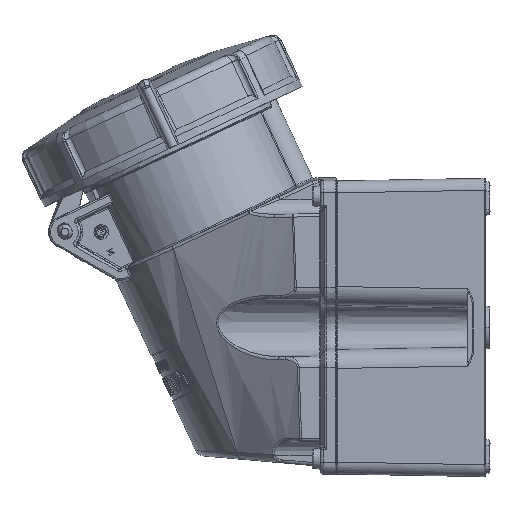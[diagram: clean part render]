
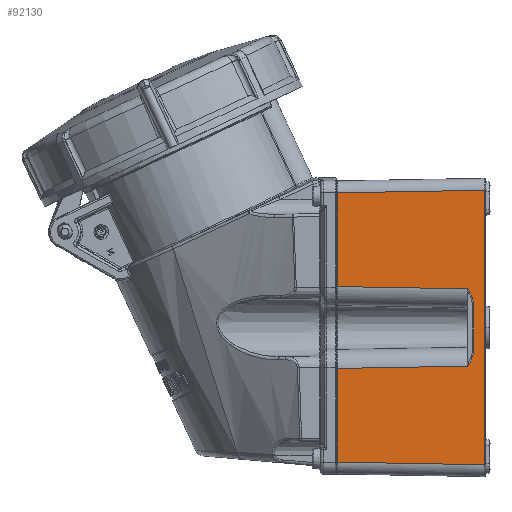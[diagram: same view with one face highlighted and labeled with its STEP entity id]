
A CAD part, left-side view. The second image highlights one B-rep face of the part: STEP entity #92130.
In plain terms, the highlighted planar face has unit normal (-1, 0.018, 0).
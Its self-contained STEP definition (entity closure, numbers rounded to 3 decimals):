
#24042=CARTESIAN_POINT('',(-54.496,-3.797,
-45.997));
#24081=CARTESIAN_POINT('',(-53.632,45.705,
-45.133));
#24086=DIRECTION('',(0.,0.,-1.));
#24087=VECTOR('',#24086,91.994);
#24088=CARTESIAN_POINT('',(-54.496,-3.797,
45.997));
#24089=LINE('2787',#24088,#24087);
#24093=DIRECTION('',(0.017,1.,0.017));
#24094=VECTOR('',#24093,49.517);
#24095=CARTESIAN_POINT('',(-54.496,-3.797,
-45.997));
#24096=LINE('2790',#24095,#24094);
#24100=DIRECTION('',(0.,0.,1.));
#24101=VECTOR('',#24100,31.411);
#24102=CARTESIAN_POINT('',(-53.632,45.705,
-45.133));
#24103=LINE('2736',#24102,#24101);
#24107=DIRECTION('',(-0.017,-1.,0.017));
#24108=VECTOR('',#24107,43.736);
#24109=CARTESIAN_POINT('',(-53.632,45.705,
-13.722));
#24110=LINE('2762',#24109,#24108);
#24114=CARTESIAN_POINT('',(-54.396,1.983,
-12.959));
#24115=CARTESIAN_POINT('',(-54.399,1.806,
-12.673));
#24116=CARTESIAN_POINT('',(-54.404,1.473,
-12.125));
#24117=CARTESIAN_POINT('',(-54.412,1.038,
-11.362));
#24118=CARTESIAN_POINT('',(-54.418,0.687,
-10.658));
#24119=CARTESIAN_POINT('',(-54.423,0.417,
-10.012));
#24120=CARTESIAN_POINT('',(-54.426,0.224,
-9.422));
#24121=CARTESIAN_POINT('',(-54.428,0.099,
-8.889));
#24122=CARTESIAN_POINT('',(-54.43,0.031,
-8.408));
#24123=CARTESIAN_POINT('',(-54.43,0.017,
-8.115));
#24124=CARTESIAN_POINT('',(-54.43,0.017,
-7.975));
#24129=DIRECTION('',(0.,0.,1.));
#24130=VECTOR('',#24129,15.951);
#24131=CARTESIAN_POINT('',(-54.43,0.017,
-7.975));
#24132=LINE('2755',#24131,#24130);
#24136=CARTESIAN_POINT('',(-54.43,0.017,
7.975));
#24137=CARTESIAN_POINT('',(-54.43,0.017,
8.115));
#24138=CARTESIAN_POINT('',(-54.43,0.031,
8.408));
#24139=CARTESIAN_POINT('',(-54.428,0.099,
8.889));
#24140=CARTESIAN_POINT('',(-54.426,0.224,
9.422));
#24141=CARTESIAN_POINT('',(-54.423,0.417,
10.012));
#24142=CARTESIAN_POINT('',(-54.418,0.687,
10.658));
#24143=CARTESIAN_POINT('',(-54.412,1.039,
11.362));
#24144=CARTESIAN_POINT('',(-54.404,1.473,
12.126));
#24145=CARTESIAN_POINT('',(-54.399,1.806,
12.673));
#24146=CARTESIAN_POINT('',(-54.396,1.983,
12.959));
#24151=DIRECTION('',(-0.017,-1.,-0.017));
#24152=VECTOR('',#24151,43.736);
#24153=CARTESIAN_POINT('',(-53.632,45.705,
13.722));
#24154=LINE('2763',#24153,#24152);
#24158=DIRECTION('',(0.,0.,1.));
#24159=VECTOR('',#24158,31.411);
#24160=CARTESIAN_POINT('',(-53.632,45.705,
13.722));
#24161=LINE('2742',#24160,#24159);
#24165=DIRECTION('',(-0.017,-1.,0.017));
#24166=VECTOR('',#24165,49.517);
#24167=CARTESIAN_POINT('',(-53.632,45.705,
45.133));
#24168=LINE('2794',#24167,#24166);
#24205=CARTESIAN_POINT('',(-54.496,-3.797,
45.997));
#24414=CARTESIAN_POINT('',(-53.632,45.705,
13.722));
#54630=VERTEX_POINT('',#24081);
#54631=CARTESIAN_POINT('',(-53.632,45.705,
-13.722));
#54632=VERTEX_POINT('',#54631);
#54640=VERTEX_POINT('',#24414);
#54641=CARTESIAN_POINT('',(-53.632,45.705,
45.133));
#54642=VERTEX_POINT('',#54641);
#54662=VERTEX_POINT('',#24136);
#54663=VERTEX_POINT('',#24146);
#54664=CARTESIAN_POINT('',(-54.43,0.017,
-7.975));
#54665=VERTEX_POINT('',#54664);
#54666=VERTEX_POINT('',#24114);
#54674=VERTEX_POINT('',#24042);
#54693=VERTEX_POINT('',#24205);
#92106=CARTESIAN_POINT('',(-54.5,-4.,-52.2));
#92107=DIRECTION('',(-1.,0.017,0.));
#92108=DIRECTION('',(0.,0.,-1.));
#92109=AXIS2_PLACEMENT_3D('',#92106,#92107,#92108);
#92110=PLANE('406',#92109);
#92112=ORIENTED_EDGE('2787',*,*,#92111,.T.);
#92113=ORIENTED_EDGE('2790',*,*,#92089,.T.);
#92114=ORIENTED_EDGE('2736',*,*,#90015,.T.);
#92116=ORIENTED_EDGE('2762',*,*,#92115,.T.);
#92118=ORIENTED_EDGE('2756',*,*,#92117,.T.);
#92120=ORIENTED_EDGE('2755',*,*,#92119,.T.);
#92122=ORIENTED_EDGE('2754',*,*,#92121,.T.);
#92124=ORIENTED_EDGE('2763',*,*,#92123,.F.);
#92125=ORIENTED_EDGE('2742',*,*,#90315,.T.);
#92127=ORIENTED_EDGE('2794',*,*,#92126,.T.);
#92128=EDGE_LOOP('406',(#92112,#92113,#92114,#92116,#92118,#92120,#92122,#92124,
#92125,#92127));
#92129=FACE_OUTER_BOUND('406',#92128,.F.);
#24125=B_SPLINE_CURVE_WITH_KNOTS('2756',3,(#24114,#24115,#24116,#24117,#24118,
#24119,#24120,#24121,#24122,#24123,#24124),.UNSPECIFIED.,.F.,.F.,(4,1,1,1,1,1,1,
1,4),(0.,0.125,0.25,0.375,0.5,0.625,0.75,0.875,1.),
.UNSPECIFIED.);
#24147=B_SPLINE_CURVE_WITH_KNOTS('2754',3,(#24136,#24137,#24138,#24139,#24140,
#24141,#24142,#24143,#24144,#24145,#24146),.UNSPECIFIED.,.F.,.F.,(4,1,1,1,1,1,1,
1,4),(0.,0.125,0.25,0.375,0.5,0.625,0.75,0.875,1.),
.UNSPECIFIED.);
#90015=EDGE_CURVE('2736',#54630,#54632,#24103,.T.);
#90315=EDGE_CURVE('2742',#54640,#54642,#24161,.T.);
#92089=EDGE_CURVE('2790',#54674,#54630,#24096,.T.);
#92111=EDGE_CURVE('2787',#54693,#54674,#24089,.T.);
#92115=EDGE_CURVE('2762',#54632,#54666,#24110,.T.);
#92117=EDGE_CURVE('2756',#54666,#54665,#24125,.T.);
#92119=EDGE_CURVE('2755',#54665,#54662,#24132,.T.);
#92121=EDGE_CURVE('2754',#54662,#54663,#24147,.T.);
#92123=EDGE_CURVE('2763',#54640,#54663,#24154,.T.);
#92126=EDGE_CURVE('2794',#54642,#54693,#24168,.T.);
#92130=ADVANCED_FACE('406',(#92129),#92110,.T.);
